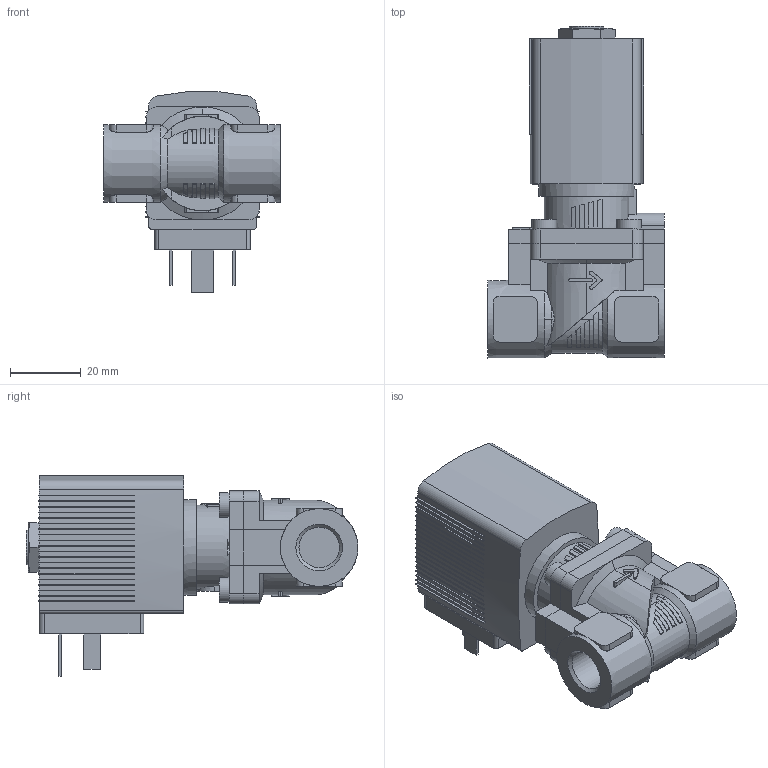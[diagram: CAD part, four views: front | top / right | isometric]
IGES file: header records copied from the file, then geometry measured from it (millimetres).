
Start section: Data from Parasolid IGES Translator 26.0.171, Copyright(c) 2006 Siemens PLM Software. All Rights Reserved.
Global section: file name: 6281-373884-2_2-Way_Solenoid_Valve__Servo-assisted__General_Purpose.igs; native system: By Siemens PLM Incorporated; preprocessor: XPlus GENERIC/IGES 26.0.171; author: Noname; organization: Noname; date: 20240510.131933; units: millimetre
Bounding box: 50 x 94 x 56.84 mm (x, y, z)
Surface area: 22760.2 mm2 (no closed solid volume)
Topology: 0 solids, 0 shells, 540 faces, 2994 edges, 2976 vertices
Faces by surface type: extrusion 424, revolution 116
